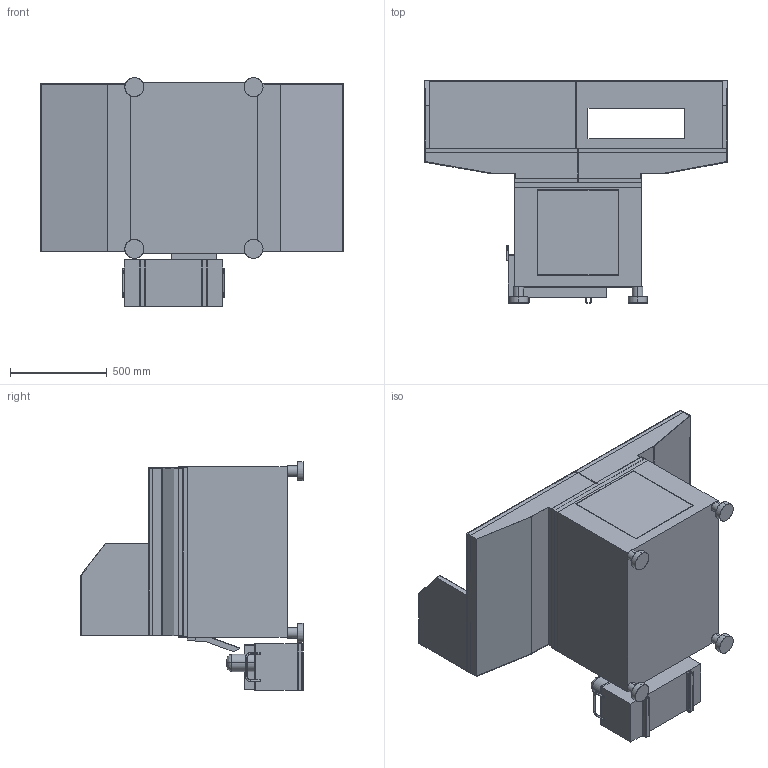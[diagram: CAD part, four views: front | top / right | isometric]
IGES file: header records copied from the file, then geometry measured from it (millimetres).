
Start section: SolidWorks IGES file using analytic representation for surfaces
Global section: file name: R:\Drawings\Files saved as other types\Solid_Models\MODELS FOR PUBLIC\31191_BASE_AND_TUB_ASSEMBLY.IGS; native system: SolidWorks 2012; preprocessor: SolidWorks 2012; author: rtooley; date: 140702.091326; units: millimetre
Bounding box: 1564 x 1148 x 1182 mm (x, y, z)
Surface area: 10607797.1 mm2 (no closed solid volume)
Topology: 0 solids, 0 shells, 436 faces, 3864 edges, 3856 vertices
Faces by surface type: bspline 366, revolution 70
